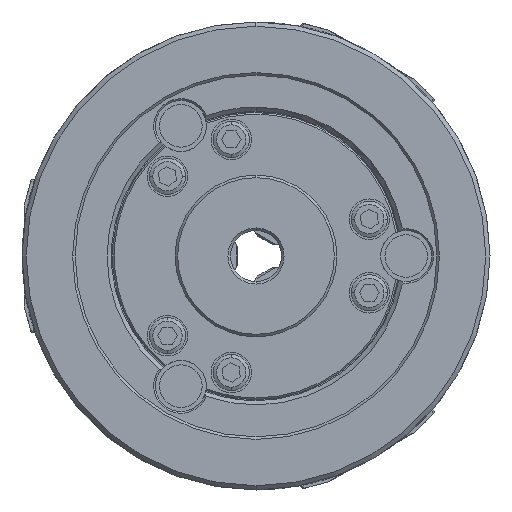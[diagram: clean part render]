
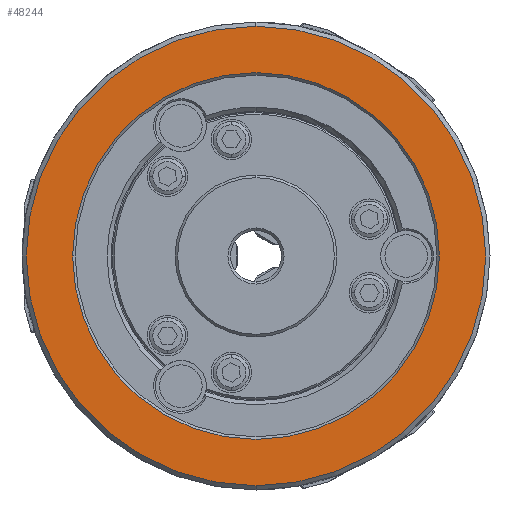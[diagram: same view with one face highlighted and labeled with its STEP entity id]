
A CAD part, left-side view. The second image highlights one B-rep face of the part: STEP entity #48244.
In plain terms, the highlighted planar face has unit normal (-1, 0, 0).
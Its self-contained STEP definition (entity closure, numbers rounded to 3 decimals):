
#476 = ORIENTED_EDGE ( 'NONE', *, *, #22269, .F. ) ;
#506 = CIRCLE ( 'NONE', #79825, 43.1 ) ;
#3503 = CARTESIAN_POINT ( 'NONE',  ( -59., 0., -54. ) ) ;
#4262 = AXIS2_PLACEMENT_3D ( 'NONE', #30962, #76932, #37640 ) ;
#5415 = CARTESIAN_POINT ( 'NONE',  ( -59., 0., 0. ) ) ;
#10098 = AXIS2_PLACEMENT_3D ( 'NONE', #16809, #23490, #69464 ) ;
#10991 = ORIENTED_EDGE ( 'NONE', *, *, #74782, .T. ) ;
#12078 = DIRECTION ( 'NONE',  ( 0., -1., 0. ) ) ;
#15138 = DIRECTION ( 'NONE',  ( 1., 0., 0. ) ) ;
#16809 = CARTESIAN_POINT ( 'NONE',  ( -59., 27., -46.765 ) ) ;
#18720 = ORIENTED_EDGE ( 'NONE', *, *, #43525, .T. ) ;
#22269 = EDGE_CURVE ( 'NONE', #65742, #28227, #25932, .T. ) ;
#23490 = DIRECTION ( 'NONE',  ( -1., 0., 0. ) ) ;
#25932 = CIRCLE ( 'NONE', #35003, 54. ) ;
#28227 = VERTEX_POINT ( 'NONE', #3503 ) ;
#29666 = CARTESIAN_POINT ( 'NONE',  ( -59., 0., 0. ) ) ;
#30962 = CARTESIAN_POINT ( 'NONE',  ( -59., 0., 0. ) ) ;
#31396 = AXIS2_PLACEMENT_3D ( 'NONE', #29666, #75652, #36342 ) ;
#34504 = EDGE_CURVE ( 'NONE', #28227, #65742, #75119, .T. ) ;
#35003 = AXIS2_PLACEMENT_3D ( 'NONE', #54636, #15138, #61189 ) ;
#36342 = DIRECTION ( 'NONE',  ( 0., -1., 0. ) ) ;
#37640 = DIRECTION ( 'NONE',  ( 0., 0., -1. ) ) ;
#39070 = VERTEX_POINT ( 'NONE', #54541 ) ;
#43525 = EDGE_CURVE ( 'NONE', #39070, #77427, #506, .T. ) ;
#44784 = FACE_OUTER_BOUND ( 'NONE', #76484, .T. ) ;
#48244 = ADVANCED_FACE ( 'NONE', ( #44784, #62181 ), #56285, .T. ) ;
#51560 = DIRECTION ( 'NONE',  ( 1., 0., 0. ) ) ;
#52182 = CARTESIAN_POINT ( 'NONE',  ( -59., 0., 54. ) ) ;
#53170 = CARTESIAN_POINT ( 'NONE',  ( -59., -43.1, 0. ) ) ;
#54541 = CARTESIAN_POINT ( 'NONE',  ( -59., 43.1, 0. ) ) ;
#54636 = CARTESIAN_POINT ( 'NONE',  ( -59., 0., 0. ) ) ;
#56285 = PLANE ( 'NONE',  #10098 ) ;
#61189 = DIRECTION ( 'NONE',  ( 0., 0., -1. ) ) ;
#62181 = FACE_BOUND ( 'NONE', #68726, .T. ) ;
#65742 = VERTEX_POINT ( 'NONE', #52182 ) ;
#68726 = EDGE_LOOP ( 'NONE', ( #10991, #18720 ) ) ;
#69464 = DIRECTION ( 'NONE',  ( 0., 0., 1. ) ) ;
#73575 = ORIENTED_EDGE ( 'NONE', *, *, #34504, .F. ) ;
#74782 = EDGE_CURVE ( 'NONE', #77427, #39070, #85162, .T. ) ;
#75119 = CIRCLE ( 'NONE', #4262, 54. ) ;
#75652 = DIRECTION ( 'NONE',  ( 1., 0., 0. ) ) ;
#76484 = EDGE_LOOP ( 'NONE', ( #73575, #476 ) ) ;
#76932 = DIRECTION ( 'NONE',  ( 1., 0., 0. ) ) ;
#77427 = VERTEX_POINT ( 'NONE', #53170 ) ;
#79825 = AXIS2_PLACEMENT_3D ( 'NONE', #5415, #51560, #12078 ) ;
#85162 = CIRCLE ( 'NONE', #31396, 43.1 ) ;
